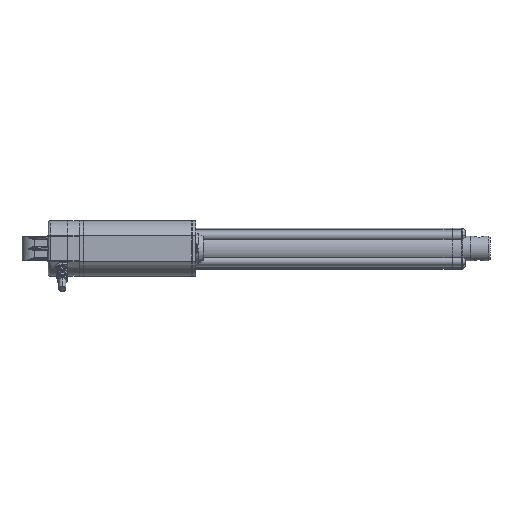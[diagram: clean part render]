
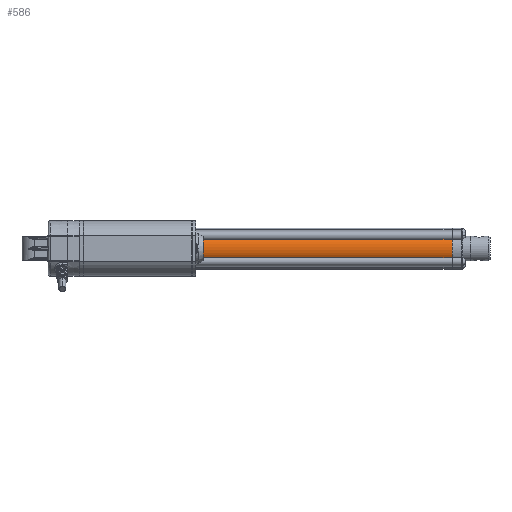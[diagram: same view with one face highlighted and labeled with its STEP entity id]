
A CAD part, front view. The second image highlights one B-rep face of the part: STEP entity #586.
In plain terms, the highlighted cylindrical face has radius 15 mm (diameter 30 mm), a partial arc.
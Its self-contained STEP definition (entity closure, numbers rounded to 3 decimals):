
#586=ADVANCED_FACE('',(#1861),#1862,.T.);
#1861=FACE_OUTER_BOUND('',#5513,.T.);
#1862=CYLINDRICAL_SURFACE('',#5514,15.0);
#5513=EDGE_LOOP('',(#11141,#11142,#11143,#11144));
#5514=AXIS2_PLACEMENT_3D('',#11145,#11146,#11147);
#11141=ORIENTED_EDGE('',*,*,#14265,.T.);
#11142=ORIENTED_EDGE('',*,*,#13938,.F.);
#11143=ORIENTED_EDGE('',*,*,#14268,.T.);
#11144=ORIENTED_EDGE('',*,*,#14271,.F.);
#11145=CARTESIAN_POINT('',(169.75,0.0,0.0));
#11146=DIRECTION('',(1.0,0.0,0.0));
#11147=DIRECTION('',(0.0,0.0,-1.0));
#13938=EDGE_CURVE('',#16599,#16589,#16601,.T.);
#14265=EDGE_CURVE('',#17126,#16589,#17127,.T.);
#14268=EDGE_CURVE('',#16599,#17129,#17131,.T.);
#14271=EDGE_CURVE('',#17126,#17129,#17135,.T.);
#16589=VERTEX_POINT('',#23947);
#16599=VERTEX_POINT('',#23957);
#16601=CIRCLE('',#23959,15.0);
#17126=VERTEX_POINT('',#25316);
#17127=LINE('',#25317,#25318);
#17129=VERTEX_POINT('',#25320);
#17131=LINE('',#25322,#25323);
#17135=CIRCLE('',#25327,15.0);
#23947=CARTESIAN_POINT('',(309.5,-12.94,-7.587));
#23957=CARTESIAN_POINT('',(309.5,-12.94,7.587));
#23959=AXIS2_PLACEMENT_3D('',#29525,#29526,#29527);
#25316=CARTESIAN_POINT('',(30.0,-12.94,-7.587));
#25317=CARTESIAN_POINT('',(169.75,-12.94,-7.587));
#25318=VECTOR('',#29909,1.0);
#25320=CARTESIAN_POINT('',(30.0,-12.94,7.587));
#25322=CARTESIAN_POINT('',(169.75,-12.94,7.587));
#25323=VECTOR('',#29916,1.0);
#25327=AXIS2_PLACEMENT_3D('',#29923,#29924,#29925);
#29525=CARTESIAN_POINT('',(309.5,0.0,0.0));
#29526=DIRECTION('',(1.0,0.0,0.0));
#29527=DIRECTION('',(0.0,0.0,-1.0));
#29909=DIRECTION('',(1.0,0.0,0.0));
#29916=DIRECTION('',(-1.0,-0.0,-0.0));
#29923=CARTESIAN_POINT('',(30.0,0.0,0.0));
#29924=DIRECTION('',(-1.0,-0.0,-0.0));
#29925=DIRECTION('',(0.0,0.0,-1.0));
